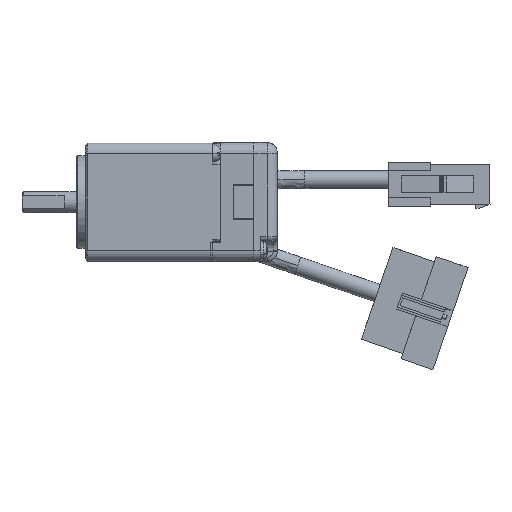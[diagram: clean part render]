
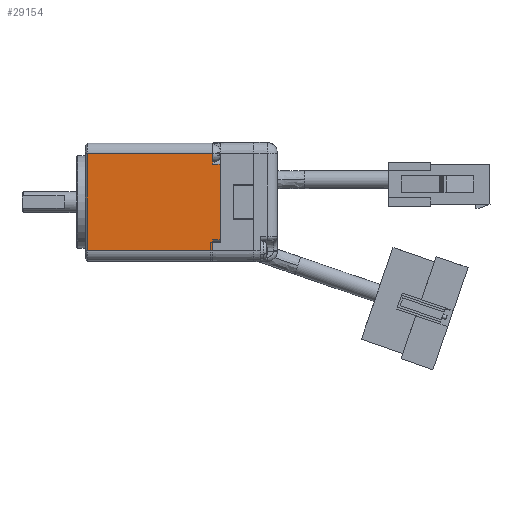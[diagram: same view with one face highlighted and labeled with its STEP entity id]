
A CAD part, front view. The second image highlights one B-rep face of the part: STEP entity #29154.
In plain terms, the highlighted planar face has unit normal (0, -1, 0) as drawn and (0, 1, 0) by its records, which use the part's own axes.
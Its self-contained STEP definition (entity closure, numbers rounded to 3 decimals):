
#123 = CARTESIAN_POINT ( 'NONE',  ( 109.751, -64.651, 2.8 ) ) ;
#687 = EDGE_CURVE ( 'NONE', #30825, #26365, #8080, .T. ) ;
#715 = CARTESIAN_POINT ( 'NONE',  ( 123.751, -64.651, 0. ) ) ;
#751 = CARTESIAN_POINT ( 'NONE',  ( 109.751, -64.651, 32.5 ) ) ;
#1329 = VERTEX_POINT ( 'NONE', #18206 ) ;
#1546 = CARTESIAN_POINT ( 'NONE',  ( 121.251, -64.651, 2.8 ) ) ;
#2295 = CARTESIAN_POINT ( 'NONE',  ( 100.751, -64.651, 1. ) ) ;
#3980 = DIRECTION ( 'NONE',  ( 0., 0., -1. ) ) ;
#5519 = LINE ( 'NONE', #25259, #28298 ) ;
#5854 = PLANE ( 'NONE',  #26328 ) ;
#6064 = ORIENTED_EDGE ( 'NONE', *, *, #13500, .T. ) ;
#7561 = VERTEX_POINT ( 'NONE', #12744 ) ;
#7602 = EDGE_CURVE ( 'NONE', #32490, #7561, #27662, .T. ) ;
#8080 = LINE ( 'NONE', #9590, #27299 ) ;
#8412 = DIRECTION ( 'NONE',  ( -1., 0., 0. ) ) ;
#9397 = EDGE_CURVE ( 'NONE', #30928, #31246, #30703, .T. ) ;
#9590 = CARTESIAN_POINT ( 'NONE',  ( 123.751, -64.651, 1. ) ) ;
#10222 = DIRECTION ( 'NONE',  ( 0., 0., -1. ) ) ;
#10241 = DIRECTION ( 'NONE',  ( 1., 0., 0. ) ) ;
#12264 = VECTOR ( 'NONE', #15695, 1000. ) ;
#12744 = CARTESIAN_POINT ( 'NONE',  ( 98.251, -64.651, 2.8 ) ) ;
#13500 = EDGE_CURVE ( 'NONE', #1329, #30825, #17596, .T. ) ;
#14760 = CARTESIAN_POINT ( 'NONE',  ( 121.251, -64.651, 32.5 ) ) ;
#15695 = DIRECTION ( 'NONE',  ( 0., 0., -1. ) ) ;
#16169 = ORIENTED_EDGE ( 'NONE', *, *, #18714, .F. ) ;
#16915 = CARTESIAN_POINT ( 'NONE',  ( 100.751, -64.651, 2.8 ) ) ;
#17596 = LINE ( 'NONE', #22743, #23476 ) ;
#17890 = DIRECTION ( 'NONE',  ( 0., 0., -1. ) ) ;
#18206 = CARTESIAN_POINT ( 'NONE',  ( 118.751, -64.651, 2.8 ) ) ;
#18714 = EDGE_CURVE ( 'NONE', #7561, #27140, #5519, .T. ) ;
#18881 = VECTOR ( 'NONE', #3980, 1000. ) ;
#19172 = ORIENTED_EDGE ( 'NONE', *, *, #27395, .T. ) ;
#19208 = ORIENTED_EDGE ( 'NONE', *, *, #687, .T. ) ;
#19449 = ORIENTED_EDGE ( 'NONE', *, *, #9397, .T. ) ;
#19674 = LINE ( 'NONE', #26588, #18881 ) ;
#19803 = EDGE_LOOP ( 'NONE', ( #30372, #16169, #26217, #19172, #19449, #30669, #6064, #19208 ) ) ;
#20857 = DIRECTION ( 'NONE',  ( 1., 0., 0. ) ) ;
#21792 = VECTOR ( 'NONE', #17890, 1000. ) ;
#22450 = VECTOR ( 'NONE', #30329, 1000. ) ;
#22743 = CARTESIAN_POINT ( 'NONE',  ( 118.751, -64.651, 8. ) ) ;
#23339 = LINE ( 'NONE', #751, #24110 ) ;
#23455 = DIRECTION ( 'NONE',  ( 0., 1., 0. ) ) ;
#23476 = VECTOR ( 'NONE', #10222, 1000. ) ;
#24110 = VECTOR ( 'NONE', #20857, 1000. ) ;
#25259 = CARTESIAN_POINT ( 'NONE',  ( 98.699, -64.651, 2.8 ) ) ;
#25824 = EDGE_CURVE ( 'NONE', #31246, #1329, #29101, .T. ) ;
#26217 = ORIENTED_EDGE ( 'NONE', *, *, #7602, .F. ) ;
#26328 = AXIS2_PLACEMENT_3D ( 'NONE', #715, #23455, #8412 ) ;
#26365 = VERTEX_POINT ( 'NONE', #2295 ) ;
#26588 = CARTESIAN_POINT ( 'NONE',  ( 100.751, -64.651, 8. ) ) ;
#26887 = CARTESIAN_POINT ( 'NONE',  ( 118.751, -64.651, 1. ) ) ;
#27004 = DIRECTION ( 'NONE',  ( -1., 0., 0. ) ) ;
#27140 = VERTEX_POINT ( 'NONE', #16915 ) ;
#27299 = VECTOR ( 'NONE', #27004, 1000. ) ;
#27395 = EDGE_CURVE ( 'NONE', #32490, #30928, #23339, .T. ) ;
#27662 = LINE ( 'NONE', #27860, #21792 ) ;
#27860 = CARTESIAN_POINT ( 'NONE',  ( 98.251, -64.651, 16.5 ) ) ;
#28298 = VECTOR ( 'NONE', #10241, 1000. ) ;
#29101 = LINE ( 'NONE', #123, #22450 ) ;
#29154 = ADVANCED_FACE ( 'NONE', ( #30299 ), #5854, .T. ) ;
#29186 = CARTESIAN_POINT ( 'NONE',  ( 98.251, -64.651, 32.5 ) ) ;
#29353 = EDGE_CURVE ( 'NONE', #27140, #26365, #19674, .T. ) ;
#30299 = FACE_OUTER_BOUND ( 'NONE', #19803, .T. ) ;
#30329 = DIRECTION ( 'NONE',  ( -1., 0., 0. ) ) ;
#30372 = ORIENTED_EDGE ( 'NONE', *, *, #29353, .F. ) ;
#30669 = ORIENTED_EDGE ( 'NONE', *, *, #25824, .T. ) ;
#30703 = LINE ( 'NONE', #30716, #12264 ) ;
#30716 = CARTESIAN_POINT ( 'NONE',  ( 121.251, -64.651, 16.5 ) ) ;
#30825 = VERTEX_POINT ( 'NONE', #26887 ) ;
#30928 = VERTEX_POINT ( 'NONE', #14760 ) ;
#31246 = VERTEX_POINT ( 'NONE', #1546 ) ;
#32490 = VERTEX_POINT ( 'NONE', #29186 ) ;
